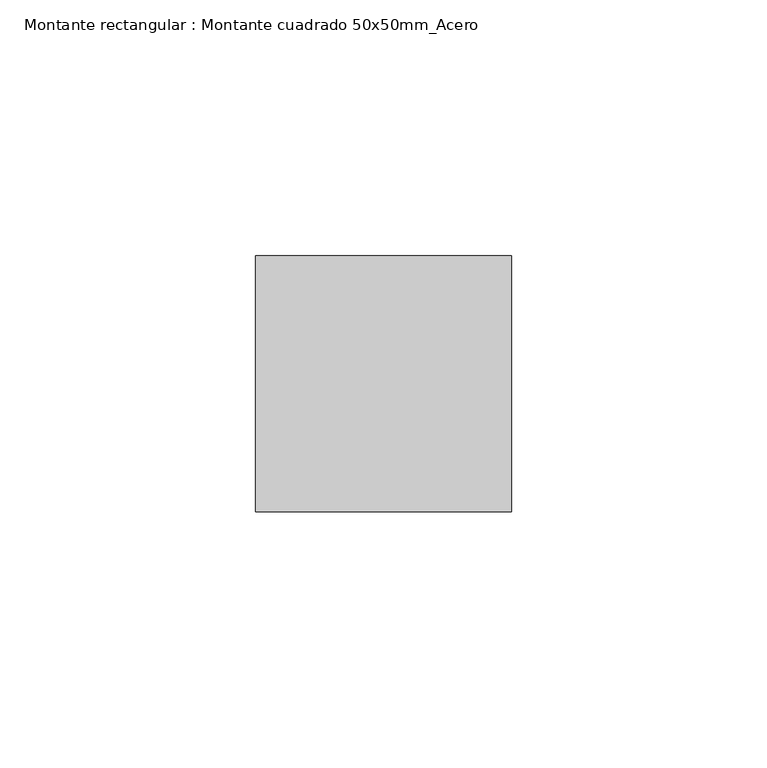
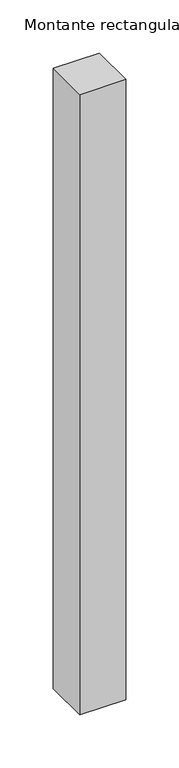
"""IFC4 building model written with IfcOpenShell, lengths in millimetres: member geometry, Montante rectangular : Montante cuadrado 50x50mm_Acero."""

from ifc_helpers import new_model, si_unit, frame, origin, place, context, project, spatial, polyline, outline, extrude, source, transform, mapped, element, save


def montante_rectangular_montante_cuadrado_50x50mm_acero_1089ad05(model_context):
    return source(origin(), model_context, "Body", "SweptSolid", [
        extrude(outline(polyline([(0.0, 0.0), (-50.0, 0.0), (-50.0, 50.0), (0.0, 50.0), (0.0, 0.0)])), frame((0.0, 0.0, -713.4722645), z_axis=(0.0, 0.0, 1.0), x_axis=(1.0, 0.0, 0.0)), (0.0, 0.0, 1.0), 713.4722645),
    ])


if __name__ == "__main__":
    model = new_model("IFC4")
    model_context = context("Model", 3, world=origin())
    ifc_project = project(units=[si_unit("LENGTHUNIT", "METRE", prefix="MILLI")], contexts=[model_context])
    site = spatial("IfcSite", under=ifc_project)
    building = spatial("IfcBuilding", under=site)
    placement = place(None, origin())
    montante_rectangular_montante_cuadrado_50x50mm_acero_shape = montante_rectangular_montante_cuadrado_50x50mm_acero_1089ad05(model_context)
    element("IfcMember", 1, ObjectType="Montante rectangular : Montante cuadrado 50x50mm_Acero", at=placement, inside=building, context=model_context, shape_type="MappedRepresentation", body=[
        mapped(montante_rectangular_montante_cuadrado_50x50mm_acero_shape, transform((0.0, 0.0, 0.0), x_axis=(1.0, 0.0, 0.0), y_axis=(0.0, 1.0, 0.0), z_axis=(0.0, 0.0, 1.0))),
    ])
    save(model, "model.ifc")
